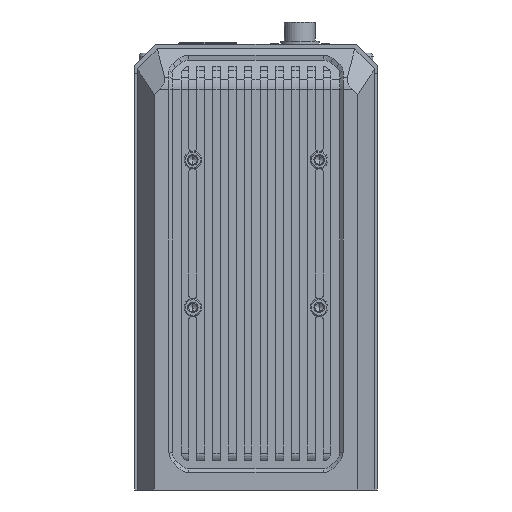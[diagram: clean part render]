
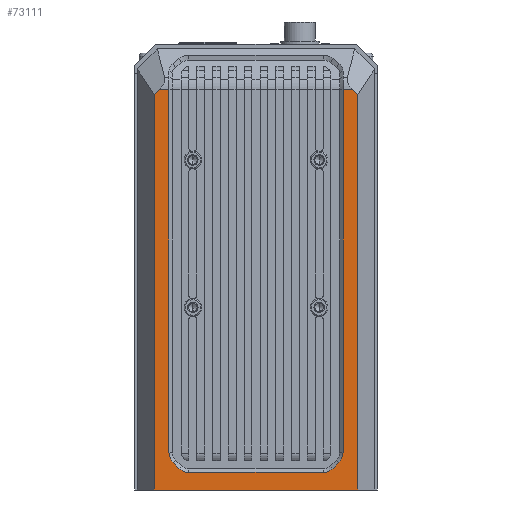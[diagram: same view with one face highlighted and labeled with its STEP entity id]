
A CAD part, left-side view. The second image highlights one B-rep face of the part: STEP entity #73111.
In plain terms, the highlighted planar face has unit normal (-1, 0, 0).
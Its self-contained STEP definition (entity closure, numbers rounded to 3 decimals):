
#16924=DIRECTION('',(0.,0.,1.));
#16925=VECTOR('',#16924,112.6);
#16926=CARTESIAN_POINT('',(-11.4,29.,-61.88));
#16927=LINE('',#16926,#16925);
#17031=DIRECTION('',(0.,0.,-1.));
#17032=VECTOR('',#17031,103.392);
#17033=CARTESIAN_POINT('',(-11.4,24.8,52.169));
#17034=LINE('',#17033,#17032);
#17051=DIRECTION('',(0.,-1.,0.));
#17052=VECTOR('',#17051,38.286);
#17053=CARTESIAN_POINT('',(-11.4,19.143,-56.88));
#17054=LINE('',#17053,#17052);
#17071=DIRECTION('',(0.,0.,1.));
#17072=VECTOR('',#17071,103.392);
#17073=CARTESIAN_POINT('',(-11.4,-24.8,-51.223));
#17074=LINE('',#17073,#17072);
#19137=DIRECTION('',(0.,-1.,0.));
#19138=VECTOR('',#19137,2.751);
#19139=CARTESIAN_POINT('',(-11.4,-24.8,52.169));
#19140=LINE('',#19139,#19138);
#19145=CARTESIAN_POINT('',(-11.4,20.8,-51.223));
#19146=DIRECTION('',(1.,0.,0.));
#19147=DIRECTION('',(0.,0.707,-0.707));
#19148=AXIS2_PLACEMENT_3D('',#19145,#19146,#19147);
#19150=DIRECTION('',(0.,0.707,0.707));
#19151=VECTOR('',#19150,2.343);
#19152=CARTESIAN_POINT('',(-11.4,21.972,-55.708));
#19153=LINE('',#19152,#19151);
#19154=CARTESIAN_POINT('',(-11.4,19.143,-52.88));
#19155=DIRECTION('',(1.,0.,0.));
#19156=DIRECTION('',(0.,0.,-1.));
#19157=AXIS2_PLACEMENT_3D('',#19154,#19155,#19156);
#19159=CARTESIAN_POINT('',(-11.4,-19.143,-52.88));
#19160=DIRECTION('',(1.,0.,0.));
#19161=DIRECTION('',(0.,-0.707,-0.707));
#19162=AXIS2_PLACEMENT_3D('',#19159,#19160,#19161);
#19164=DIRECTION('',(0.,0.707,-0.707));
#19165=VECTOR('',#19164,2.343);
#19166=CARTESIAN_POINT('',(-11.4,-23.628,-54.052));
#19167=LINE('',#19166,#19165);
#19168=CARTESIAN_POINT('',(-11.4,-20.8,-51.223));
#19169=DIRECTION('',(1.,0.,0.));
#19170=DIRECTION('',(0.,-1.,0.));
#19171=AXIS2_PLACEMENT_3D('',#19168,#19169,#19170);
#19173=DIRECTION('',(0.,0.707,0.707));
#19174=VECTOR('',#19173,2.049);
#19175=CARTESIAN_POINT('',(-11.4,-29.,50.72));
#19176=LINE('',#19175,#19174);
#19177=DIRECTION('',(0.,0.,1.));
#19178=VECTOR('',#19177,112.6);
#19179=CARTESIAN_POINT('',(-11.4,-29.,-61.88));
#19180=LINE('',#19179,#19178);
#19181=DIRECTION('',(0.,-1.,0.));
#19182=VECTOR('',#19181,58.);
#19183=CARTESIAN_POINT('',(-11.4,29.,-61.88));
#19184=LINE('',#19183,#19182);
#19185=DIRECTION('',(0.,0.707,-0.707));
#19186=VECTOR('',#19185,2.049);
#19187=CARTESIAN_POINT('',(-11.4,27.551,52.169));
#19188=LINE('',#19187,#19186);
#19193=DIRECTION('',(0.,-1.,0.));
#19194=VECTOR('',#19193,2.751);
#19195=CARTESIAN_POINT('',(-11.4,27.551,52.169));
#19196=LINE('',#19195,#19194);
#36037=CARTESIAN_POINT('',(-11.4,29.,-61.88));
#36038=VERTEX_POINT('',#36037);
#36039=CARTESIAN_POINT('',(-11.4,-29.,-61.88));
#36040=VERTEX_POINT('',#36039);
#36465=CARTESIAN_POINT('',(-11.4,-29.,50.72));
#36466=VERTEX_POINT('',#36465);
#36467=CARTESIAN_POINT('',(-11.4,24.8,52.169));
#36468=CARTESIAN_POINT('',(-11.4,24.8,-51.223));
#36469=VERTEX_POINT('',#36467);
#36470=VERTEX_POINT('',#36468);
#36471=CARTESIAN_POINT('',(-11.4,23.628,-54.052));
#36472=VERTEX_POINT('',#36471);
#36473=CARTESIAN_POINT('',(-11.4,21.972,-55.708));
#36474=VERTEX_POINT('',#36473);
#36475=CARTESIAN_POINT('',(-11.4,19.143,-56.88));
#36476=VERTEX_POINT('',#36475);
#36477=CARTESIAN_POINT('',(-11.4,-19.143,-56.88));
#36478=VERTEX_POINT('',#36477);
#36479=CARTESIAN_POINT('',(-11.4,-21.972,-55.708));
#36480=VERTEX_POINT('',#36479);
#36481=CARTESIAN_POINT('',(-11.4,-23.628,-54.052));
#36482=VERTEX_POINT('',#36481);
#36483=CARTESIAN_POINT('',(-11.4,-24.8,-51.223));
#36484=VERTEX_POINT('',#36483);
#36485=CARTESIAN_POINT('',(-11.4,-24.8,52.169));
#36486=VERTEX_POINT('',#36485);
#36487=CARTESIAN_POINT('',(-11.4,-27.551,52.169));
#36488=VERTEX_POINT('',#36487);
#36489=CARTESIAN_POINT('',(-11.4,29.,50.72));
#36490=VERTEX_POINT('',#36489);
#36491=CARTESIAN_POINT('',(-11.4,27.551,52.169));
#36492=VERTEX_POINT('',#36491);
#73085=CARTESIAN_POINT('',(-11.4,-34.5,-61.88));
#73086=DIRECTION('',(-1.,0.,0.));
#73087=DIRECTION('',(0.,1.,0.));
#73088=AXIS2_PLACEMENT_3D('',#73085,#73086,#73087);
#73089=PLANE('',#73088);
#73091=ORIENTED_EDGE('',*,*,#73090,.T.);
#73092=ORIENTED_EDGE('',*,*,#70337,.T.);
#73093=ORIENTED_EDGE('',*,*,#70352,.F.);
#73094=ORIENTED_EDGE('',*,*,#70367,.F.);
#73095=ORIENTED_EDGE('',*,*,#70382,.F.);
#73096=ORIENTED_EDGE('',*,*,#70397,.T.);
#73097=ORIENTED_EDGE('',*,*,#70412,.F.);
#73098=ORIENTED_EDGE('',*,*,#70427,.F.);
#73099=ORIENTED_EDGE('',*,*,#70442,.F.);
#73100=ORIENTED_EDGE('',*,*,#70457,.T.);
#73101=ORIENTED_EDGE('',*,*,#73076,.T.);
#73103=ORIENTED_EDGE('',*,*,#73102,.F.);
#73105=ORIENTED_EDGE('',*,*,#73104,.F.);
#73106=ORIENTED_EDGE('',*,*,#69437,.F.);
#73107=ORIENTED_EDGE('',*,*,#70175,.T.);
#73108=ORIENTED_EDGE('',*,*,#70189,.F.);
#73109=EDGE_LOOP('',(#73091,#73092,#73093,#73094,#73095,#73096,#73097,#73098,
#73099,#73100,#73101,#73103,#73105,#73106,#73107,#73108));
#73110=FACE_OUTER_BOUND('',#73109,.F.);
#19149=CIRCLE('',#19148,4.);
#19158=CIRCLE('',#19157,4.);
#19163=CIRCLE('',#19162,4.);
#19172=CIRCLE('',#19171,4.);
#69437=EDGE_CURVE('',#36038,#36040,#19184,.T.);
#70175=EDGE_CURVE('',#36038,#36490,#16927,.T.);
#70189=EDGE_CURVE('',#36492,#36490,#19188,.T.);
#70337=EDGE_CURVE('',#36469,#36470,#17034,.T.);
#70352=EDGE_CURVE('',#36472,#36470,#19149,.T.);
#70367=EDGE_CURVE('',#36474,#36472,#19153,.T.);
#70382=EDGE_CURVE('',#36476,#36474,#19158,.T.);
#70397=EDGE_CURVE('',#36476,#36478,#17054,.T.);
#70412=EDGE_CURVE('',#36480,#36478,#19163,.T.);
#70427=EDGE_CURVE('',#36482,#36480,#19167,.T.);
#70442=EDGE_CURVE('',#36484,#36482,#19172,.T.);
#70457=EDGE_CURVE('',#36484,#36486,#17074,.T.);
#73076=EDGE_CURVE('',#36486,#36488,#19140,.T.);
#73090=EDGE_CURVE('',#36492,#36469,#19196,.T.);
#73102=EDGE_CURVE('',#36466,#36488,#19176,.T.);
#73104=EDGE_CURVE('',#36040,#36466,#19180,.T.);
#73111=ADVANCED_FACE('',(#73110),#73089,.T.);
